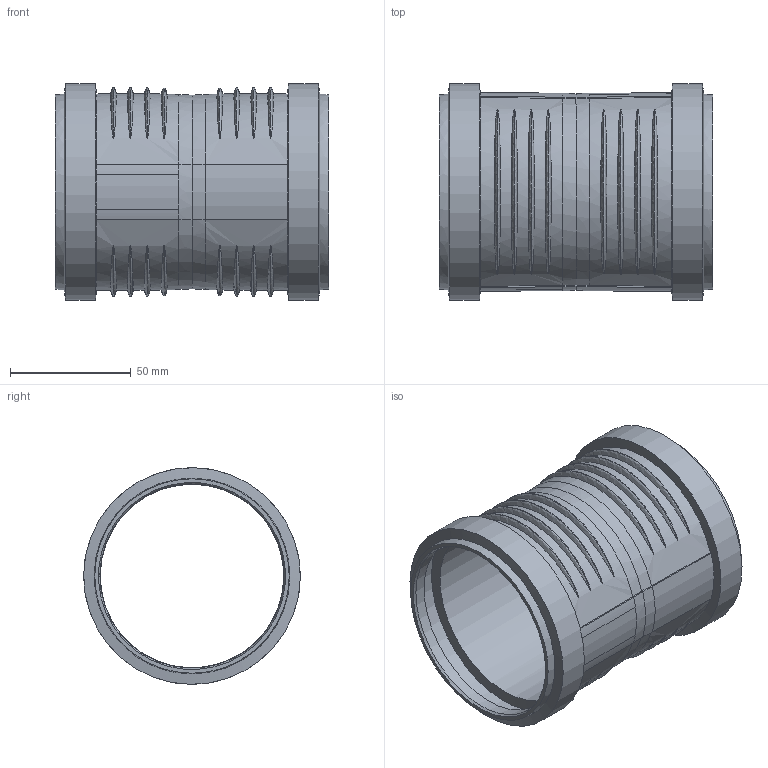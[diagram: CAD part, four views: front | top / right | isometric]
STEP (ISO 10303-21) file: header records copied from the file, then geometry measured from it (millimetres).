
FILE_DESCRIPTION(/* description */ (''),/* implementation_level */ '2;1');
FILE_NAME(/* name */ '390317.stp',/* time_stamp */ '2023-09-26T13:21:08+02:00',/* author */ ('JANAN'),/* organization */ (''),/* preprocessor_version */ 'ST-DEVELOPER v19.2',/* originating_system */ 'Autodesk Inventor 2023',/* authorisation */ '');
FILE_SCHEMA (('AUTOMOTIVE_DESIGN { 1 0 10303 214 3 1 1 }'));
Length unit declared in the file: millimetre
Products named in the file (1): tmpE125.tmp
Bounding box: 113 x 89.58 x 89.58 mm (x, y, z)
Volume: 86079.6 mm3; surface area: 68869.4 mm2
Topology: 1 solids, 1 shells, 79 faces, 176 edges, 115 vertices
Faces by surface type: bspline 56, cone 10, cylinder 7, plane 6
Full cylindrical faces by diameter (mm): 75.9 x1, 76.2 x2, 85 x2, 89.6 x2
Entity records: 8337 total; most frequent: CARTESIAN_POINT 6681, ORIENTED_EDGE 360, DIRECTION 263, EDGE_CURVE 180, AXIS2_PLACEMENT_3D 123, VERTEX_POINT 119, CIRCLE 99, EDGE_LOOP 97
